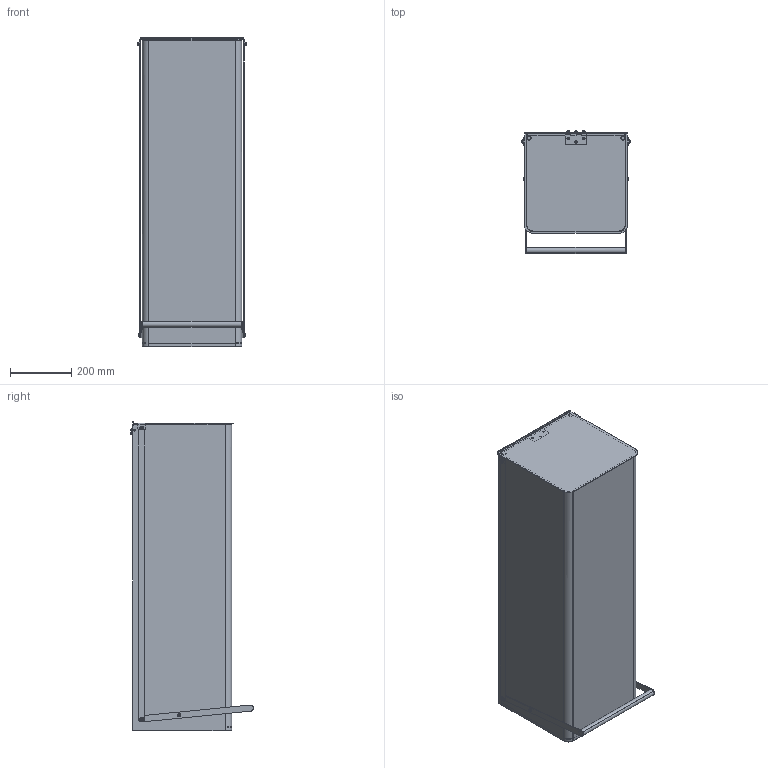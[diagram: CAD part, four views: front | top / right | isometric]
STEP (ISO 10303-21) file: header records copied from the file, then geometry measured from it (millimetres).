
FILE_DESCRIPTION(/* description */ (''),/* implementation_level */ '2;1');
FILE_NAME(/* name */ 'NEST_1~1',/* time_stamp */ '2020-09-02T13:44:15+02:00',/* author */ (''),/* organization */ (''),/* preprocessor_version */ 'ST-DEVELOPER v16.5',/* originating_system */ '',/* authorisation */ '');
FILE_SCHEMA (('AUTOMOTIVE_DESIGN'));
Length unit declared in the file: millimetre
Products named in the file (21): Document; NEST_1000_000; NEST_1000_003; plain washer grade a_din_Washer DIN 125 - A 5.3; socket head cap screw_din_DIN 912 M5 x 16 --- 16N; socket head cap screw_din_DIN 912 M5 x 12 --- 12N; NEST_000_004; hex flange nut_din_Hexagon Flange Nut DIN 6923 - M5 - N; 3205512; 05TF30FRFI_FIXOR; NEST_000_008; domed cap nut_din_DIN 1587 - M4 --NNU; 15CHM4-08; plain washer grade a_din_Washer DIN 125 - A 4.3; NEST_000_002; NEST_000_009; NEST_000_006; NEST_1000_002; NEST_1000_001; NEST_000_015; NEST_000_101
Assembly tree (59 placements, depth 3):
  Document
    NEST_1000_000
      NEST_1000_003  x2
      plain washer grade a_din_Washer DIN 125 - A 5.3  x16
      socket head cap screw_din_DIN 912 M5 x 16 --- 16N
      socket head cap screw_din_DIN 912 M5 x 12 --- 12N  x6
      NEST_000_004
      hex flange nut_din_Hexagon Flange Nut DIN 6923 - M5 - N  x9
      3205512  x2
      05TF30FRFI_FIXOR  x2
      NEST_000_008
      domed cap nut_din_DIN 1587 - M4 --NNU  x3
      15CHM4-08  x3
      plain washer grade a_din_Washer DIN 125 - A 4.3  x3
      NEST_000_002  x2
      NEST_000_009
      NEST_000_006  x2
      NEST_1000_002
      NEST_1000_001
      NEST_000_015
      NEST_000_101
Bounding box: 357 x 399.37 x 1006 mm (x, y, z)
Volume: 2559396.7 mm3; surface area: 3253459.9 mm2
Topology: 58 solids, 58 shells, 1175 faces, 2617 edges, 1540 vertices
Faces by surface type: bspline 697, plane 478
Entity records: 18635 total; most frequent: CARTESIAN_POINT 10260, ORIENTED_EDGE 2350, EDGE_CURVE 1175, B_SPLINE_CURVE_WITH_KNOTS 743, VERTEX_POINT 706, EDGE_LOOP 589, ADVANCED_FACE 514, FACE_OUTER_BOUND 514
